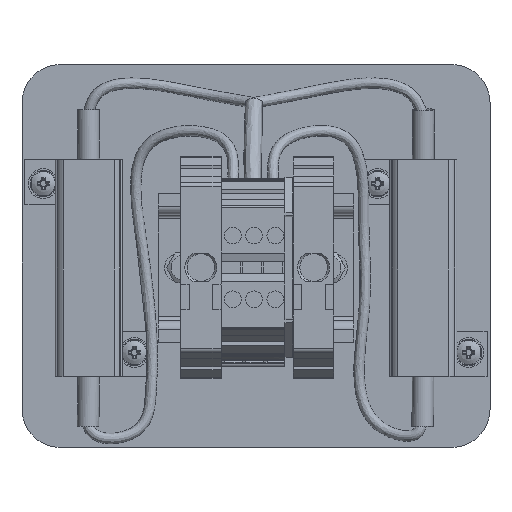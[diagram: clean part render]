
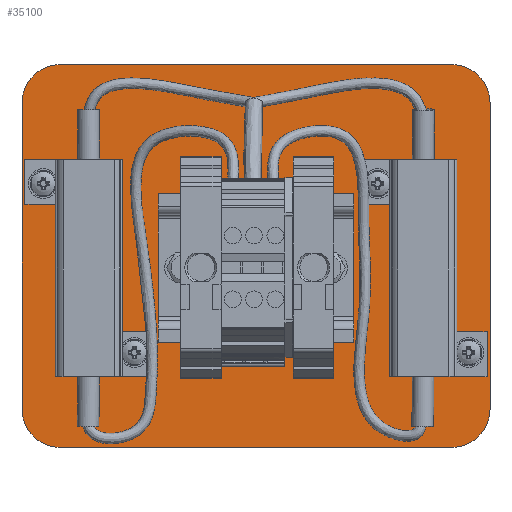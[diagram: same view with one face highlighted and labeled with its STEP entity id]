
A CAD part, top view. The second image highlights one B-rep face of the part: STEP entity #35100.
In plain terms, the highlighted planar face has unit normal (0, 0, 1).
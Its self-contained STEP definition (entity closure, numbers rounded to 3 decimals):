
#1203=LINE('',#51676,#4659);
#1215=LINE('',#51739,#4671);
#1219=LINE('',#51751,#4675);
#1223=LINE('',#51763,#4679);
#1351=LINE('',#52186,#4807);
#1355=LINE('',#52193,#4811);
#1359=LINE('',#52202,#4815);
#1361=LINE('',#52207,#4817);
#1372=LINE('',#52231,#4828);
#1398=LINE('',#52323,#4854);
#1413=LINE('',#52581,#4869);
#1430=LINE('',#52880,#4886);
#1558=LINE('',#53300,#5014);
#1562=LINE('',#53307,#5018);
#1566=LINE('',#53316,#5022);
#1568=LINE('',#53321,#5024);
#1579=LINE('',#53345,#5035);
#1605=LINE('',#53437,#5061);
#1620=LINE('',#53695,#5076);
#1637=LINE('',#53994,#5093);
#1640=LINE('',#54007,#5096);
#1641=LINE('',#54009,#5097);
#1642=LINE('',#54011,#5098);
#1643=LINE('',#54012,#5099);
#4659=VECTOR('',#40645,10.);
#4671=VECTOR('',#40713,10.);
#4675=VECTOR('',#40725,10.);
#4679=VECTOR('',#40737,10.);
#4807=VECTOR('',#41155,10.);
#4811=VECTOR('',#41161,10.);
#4815=VECTOR('',#41167,10.);
#4817=VECTOR('',#41171,10.);
#4828=VECTOR('',#41192,10.);
#4854=VECTOR('',#41252,10.);
#4869=VECTOR('',#41337,10.);
#4886=VECTOR('',#41428,10.);
#5014=VECTOR('',#41840,10.);
#5018=VECTOR('',#41846,10.);
#5022=VECTOR('',#41852,10.);
#5024=VECTOR('',#41856,10.);
#5035=VECTOR('',#41877,10.);
#5061=VECTOR('',#41937,10.);
#5076=VECTOR('',#42022,10.);
#5093=VECTOR('',#42113,10.);
#5096=VECTOR('',#42124,10.);
#5097=VECTOR('',#42125,10.);
#5098=VECTOR('',#42126,10.);
#5099=VECTOR('',#42127,10.);
#8110=FACE_BOUND('',#10553,.T.);
#8111=FACE_BOUND('',#10554,.T.);
#8112=FACE_BOUND('',#10555,.T.);
#8654=FACE_OUTER_BOUND('',#10552,.T.);
#10552=EDGE_LOOP('',(#24268,#24269,#24270,#24271,#24272,#24273,#24274,#24275));
#10553=EDGE_LOOP('',(#24276,#24277,#24278,#24279));
#10554=EDGE_LOOP('',(#24280,#24281,#24282,#24283,#24284,#24285,#24286,#24287));
#10555=EDGE_LOOP('',(#24288,#24289,#24290,#24291,#24292,#24293,#24294,#24295));
#12327=CIRCLE('',#36963,9.);
#12329=CIRCLE('',#36967,9.);
#12331=CIRCLE('',#36971,9.);
#12333=CIRCLE('',#36975,9.);
#13698=VERTEX_POINT('',#51672);
#13700=VERTEX_POINT('',#51675);
#13720=VERTEX_POINT('',#51729);
#13723=VERTEX_POINT('',#51736);
#13724=VERTEX_POINT('',#51741);
#13727=VERTEX_POINT('',#51748);
#13728=VERTEX_POINT('',#51753);
#13731=VERTEX_POINT('',#51760);
#13880=VERTEX_POINT('',#52183);
#13881=VERTEX_POINT('',#52185);
#13883=VERTEX_POINT('',#52191);
#13884=VERTEX_POINT('',#52195);
#13887=VERTEX_POINT('',#52200);
#13889=VERTEX_POINT('',#52206);
#13894=VERTEX_POINT('',#52230);
#13913=VERTEX_POINT('',#52322);
#14108=VERTEX_POINT('',#53297);
#14109=VERTEX_POINT('',#53299);
#14111=VERTEX_POINT('',#53305);
#14112=VERTEX_POINT('',#53309);
#14115=VERTEX_POINT('',#53314);
#14117=VERTEX_POINT('',#53320);
#14122=VERTEX_POINT('',#53344);
#14141=VERTEX_POINT('',#53436);
#14192=VERTEX_POINT('',#54005);
#14193=VERTEX_POINT('',#54006);
#14194=VERTEX_POINT('',#54008);
#14195=VERTEX_POINT('',#54010);
#17272=EDGE_CURVE('',#13698,#13700,#1203,.T.);
#17299=EDGE_CURVE('',#13700,#13720,#12327,.T.);
#17304=EDGE_CURVE('',#13720,#13723,#1215,.T.);
#17305=EDGE_CURVE('',#13723,#13724,#12329,.T.);
#17310=EDGE_CURVE('',#13724,#13727,#1219,.T.);
#17311=EDGE_CURVE('',#13727,#13728,#12331,.T.);
#17316=EDGE_CURVE('',#13728,#13731,#1223,.T.);
#17317=EDGE_CURVE('',#13731,#13698,#12333,.T.);
#17522=EDGE_CURVE('',#13881,#13880,#1351,.T.);
#17526=EDGE_CURVE('',#13880,#13883,#1355,.T.);
#17530=EDGE_CURVE('',#13884,#13887,#1359,.T.);
#17532=EDGE_CURVE('',#13889,#13884,#1361,.T.);
#17544=EDGE_CURVE('',#13894,#13889,#1372,.T.);
#17578=EDGE_CURVE('',#13913,#13881,#1398,.T.);
#17616=EDGE_CURVE('',#13887,#13913,#1413,.T.);
#17659=EDGE_CURVE('',#13883,#13894,#1430,.T.);
#17863=EDGE_CURVE('',#14109,#14108,#1558,.T.);
#17867=EDGE_CURVE('',#14108,#14111,#1562,.T.);
#17871=EDGE_CURVE('',#14112,#14115,#1566,.T.);
#17873=EDGE_CURVE('',#14117,#14112,#1568,.T.);
#17885=EDGE_CURVE('',#14122,#14117,#1579,.T.);
#17919=EDGE_CURVE('',#14141,#14109,#1605,.T.);
#17957=EDGE_CURVE('',#14115,#14141,#1620,.T.);
#18000=EDGE_CURVE('',#14111,#14122,#1637,.T.);
#18005=EDGE_CURVE('',#14192,#14193,#1640,.T.);
#18006=EDGE_CURVE('',#14194,#14193,#1641,.T.);
#18007=EDGE_CURVE('',#14194,#14195,#1642,.T.);
#18008=EDGE_CURVE('',#14195,#14192,#1643,.T.);
#24268=ORIENTED_EDGE('',*,*,#17317,.F.);
#24269=ORIENTED_EDGE('',*,*,#17316,.F.);
#24270=ORIENTED_EDGE('',*,*,#17311,.F.);
#24271=ORIENTED_EDGE('',*,*,#17310,.F.);
#24272=ORIENTED_EDGE('',*,*,#17305,.F.);
#24273=ORIENTED_EDGE('',*,*,#17304,.F.);
#24274=ORIENTED_EDGE('',*,*,#17299,.F.);
#24275=ORIENTED_EDGE('',*,*,#17272,.F.);
#24276=ORIENTED_EDGE('',*,*,#18005,.T.);
#24277=ORIENTED_EDGE('',*,*,#18006,.F.);
#24278=ORIENTED_EDGE('',*,*,#18007,.T.);
#24279=ORIENTED_EDGE('',*,*,#18008,.T.);
#24280=ORIENTED_EDGE('',*,*,#17957,.T.);
#24281=ORIENTED_EDGE('',*,*,#17919,.T.);
#24282=ORIENTED_EDGE('',*,*,#17863,.T.);
#24283=ORIENTED_EDGE('',*,*,#17867,.T.);
#24284=ORIENTED_EDGE('',*,*,#18000,.T.);
#24285=ORIENTED_EDGE('',*,*,#17885,.T.);
#24286=ORIENTED_EDGE('',*,*,#17873,.T.);
#24287=ORIENTED_EDGE('',*,*,#17871,.T.);
#24288=ORIENTED_EDGE('',*,*,#17616,.T.);
#24289=ORIENTED_EDGE('',*,*,#17578,.T.);
#24290=ORIENTED_EDGE('',*,*,#17522,.T.);
#24291=ORIENTED_EDGE('',*,*,#17526,.T.);
#24292=ORIENTED_EDGE('',*,*,#17659,.T.);
#24293=ORIENTED_EDGE('',*,*,#17544,.T.);
#24294=ORIENTED_EDGE('',*,*,#17532,.T.);
#24295=ORIENTED_EDGE('',*,*,#17530,.T.);
#32321=PLANE('',#37458);
#35100=ADVANCED_FACE('',(#8654,#8110,#8111,#8112),#32321,.T.);
#36963=AXIS2_PLACEMENT_3D('',#51730,#40704,#40705);
#36967=AXIS2_PLACEMENT_3D('',#51742,#40716,#40717);
#36971=AXIS2_PLACEMENT_3D('',#51754,#40728,#40729);
#36975=AXIS2_PLACEMENT_3D('',#51765,#40740,#40741);
#37458=AXIS2_PLACEMENT_3D('',#54004,#42122,#42123);
#40645=DIRECTION('',(0.,1.,0.));
#40704=DIRECTION('center_axis',(0.,0.,-1.));
#40705=DIRECTION('ref_axis',(-0.707,0.707,0.));
#40713=DIRECTION('',(1.,0.,0.));
#40716=DIRECTION('center_axis',(0.,0.,-1.));
#40717=DIRECTION('ref_axis',(0.707,0.707,0.));
#40725=DIRECTION('',(0.,-1.,0.));
#40728=DIRECTION('center_axis',(0.,0.,-1.));
#40729=DIRECTION('ref_axis',(0.707,-0.707,0.));
#40737=DIRECTION('',(-1.,0.,0.));
#40740=DIRECTION('center_axis',(0.,0.,-1.));
#40741=DIRECTION('ref_axis',(-0.707,-0.707,0.));
#41155=DIRECTION('',(-1.,0.,0.));
#41161=DIRECTION('',(0.,1.,0.));
#41167=DIRECTION('',(0.,-1.,0.));
#41171=DIRECTION('',(1.,0.,0.));
#41192=DIRECTION('',(0.,-1.,0.));
#41252=DIRECTION('',(0.,1.,0.));
#41337=DIRECTION('',(-1.,0.,0.));
#41428=DIRECTION('',(1.,0.,0.));
#41840=DIRECTION('',(-1.,0.,0.));
#41846=DIRECTION('',(0.,1.,0.));
#41852=DIRECTION('',(0.,-1.,0.));
#41856=DIRECTION('',(1.,0.,0.));
#41877=DIRECTION('',(0.,-1.,0.));
#41937=DIRECTION('',(0.,1.,0.));
#42022=DIRECTION('',(-1.,0.,0.));
#42113=DIRECTION('',(1.,0.,0.));
#42122=DIRECTION('center_axis',(0.,0.,1.));
#42123=DIRECTION('ref_axis',(1.,0.,0.));
#42124=DIRECTION('',(0.,1.,0.));
#42125=DIRECTION('',(-1.,0.,0.));
#42126=DIRECTION('',(0.,-1.,0.));
#42127=DIRECTION('',(-1.,0.,0.));
#51672=CARTESIAN_POINT('',(-55.,-36.,2.));
#51675=CARTESIAN_POINT('',(-55.,36.,2.));
#51676=CARTESIAN_POINT('',(-55.,-45.,2.));
#51729=CARTESIAN_POINT('',(-46.,45.,2.));
#51730=CARTESIAN_POINT('Origin',(-46.,36.,2.));
#51736=CARTESIAN_POINT('',(46.,45.,2.));
#51739=CARTESIAN_POINT('',(-55.,45.,2.));
#51741=CARTESIAN_POINT('',(55.,36.,2.));
#51742=CARTESIAN_POINT('Origin',(46.,36.,2.));
#51748=CARTESIAN_POINT('',(55.,-36.,2.));
#51751=CARTESIAN_POINT('',(55.,45.,2.));
#51753=CARTESIAN_POINT('',(46.,-45.,2.));
#51754=CARTESIAN_POINT('Origin',(46.,-36.,2.));
#51760=CARTESIAN_POINT('',(-46.,-45.,2.));
#51763=CARTESIAN_POINT('',(55.,-45.,2.));
#51765=CARTESIAN_POINT('Origin',(-46.,-36.,2.));
#52183=CARTESIAN_POINT('',(-54.3,12.15,2.));
#52185=CARTESIAN_POINT('',(-47.2,12.15,2.));
#52186=CARTESIAN_POINT('',(-27.15,12.15,2.));
#52191=CARTESIAN_POINT('',(-54.3,22.65,2.));
#52193=CARTESIAN_POINT('',(-54.3,11.325,2.));
#52195=CARTESIAN_POINT('',(-24.3,-17.85,2.));
#52200=CARTESIAN_POINT('',(-24.3,-28.35,2.));
#52202=CARTESIAN_POINT('',(-24.3,-14.175,2.));
#52206=CARTESIAN_POINT('',(-31.4,-17.85,2.));
#52207=CARTESIAN_POINT('',(-12.15,-17.85,2.));
#52230=CARTESIAN_POINT('',(-31.4,22.65,2.));
#52231=CARTESIAN_POINT('',(-31.4,11.325,2.));
#52322=CARTESIAN_POINT('',(-47.2,-28.35,2.));
#52323=CARTESIAN_POINT('',(-47.2,11.325,2.));
#52581=CARTESIAN_POINT('',(-19.65,-28.35,2.));
#52880=CARTESIAN_POINT('',(-19.65,22.65,2.));
#53297=CARTESIAN_POINT('',(24.3,12.15,2.));
#53299=CARTESIAN_POINT('',(31.4,12.15,2.));
#53300=CARTESIAN_POINT('',(12.15,12.15,2.));
#53305=CARTESIAN_POINT('',(24.3,22.65,2.));
#53307=CARTESIAN_POINT('',(24.3,11.325,2.));
#53309=CARTESIAN_POINT('',(54.3,-17.85,2.));
#53314=CARTESIAN_POINT('',(54.3,-28.35,2.));
#53316=CARTESIAN_POINT('',(54.3,-14.175,2.));
#53320=CARTESIAN_POINT('',(47.2,-17.85,2.));
#53321=CARTESIAN_POINT('',(27.15,-17.85,2.));
#53344=CARTESIAN_POINT('',(47.2,22.65,2.));
#53345=CARTESIAN_POINT('',(47.2,11.325,2.));
#53436=CARTESIAN_POINT('',(31.4,-28.35,2.));
#53437=CARTESIAN_POINT('',(31.4,11.325,2.));
#53695=CARTESIAN_POINT('',(19.65,-28.35,2.));
#53994=CARTESIAN_POINT('',(19.65,22.65,2.));
#54004=CARTESIAN_POINT('Origin',(0.,0.,2.));
#54005=CARTESIAN_POINT('',(-23.,-14.279,2.));
#54006=CARTESIAN_POINT('',(-23.,8.721,2.));
#54007=CARTESIAN_POINT('',(-23.,-1.39,2.));
#54008=CARTESIAN_POINT('',(23.,8.721,2.));
#54009=CARTESIAN_POINT('',(23.,8.721,2.));
#54010=CARTESIAN_POINT('',(23.,-14.279,2.));
#54011=CARTESIAN_POINT('',(23.,6.111,2.));
#54012=CARTESIAN_POINT('',(23.,-14.279,2.));
